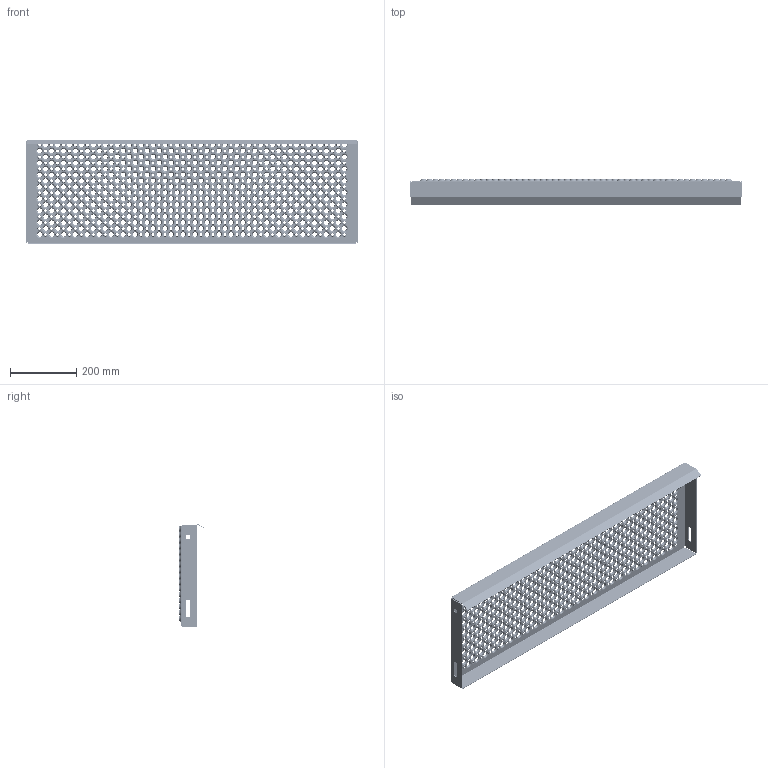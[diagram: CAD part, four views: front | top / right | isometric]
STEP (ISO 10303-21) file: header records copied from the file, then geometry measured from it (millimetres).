
FILE_DESCRIPTION (( 'STEP AP203' ), '1' );
FILE_NAME ('80243110G_Lejdertrin_315x1000x45_mm_.STEP', '2015-06-09T06:17:35', ( '' ), ( '' ), 'SwSTEP 2.0', 'SolidWorks 2013', '' );
FILE_SCHEMA (( 'CONFIG_CONTROL_DESIGN' ));
Products named in the file (1): 80243110G_Lejdertrin_315x1000x45_mm_
Bounding box: 1000 x 75.67 x 315 mm (x, y, z)
Volume: 860329.8 mm3; surface area: 927477.7 mm2
Topology: 1 solids, 1 shells, 4236 faces, 11830 edges, 7596 vertices
Faces by surface type: cone 2496, torus 1664, cylinder 36, plane 32, bspline 8
Full cylindrical faces by diameter (mm): 14 x2
Entity records: 97505 total; most frequent: DIRECTION 18646, CARTESIAN_POINT 15009, ORIENTED_EDGE 10344, EDGE_LOOP 10070, AXIS2_PLACEMENT_3D 9277, FACE_OUTER_BOUND 5902, EDGE_CURVE 5172, VERTEX_POINT 5100
